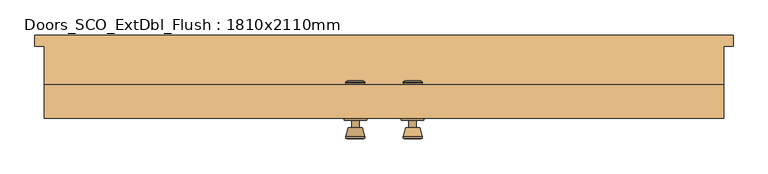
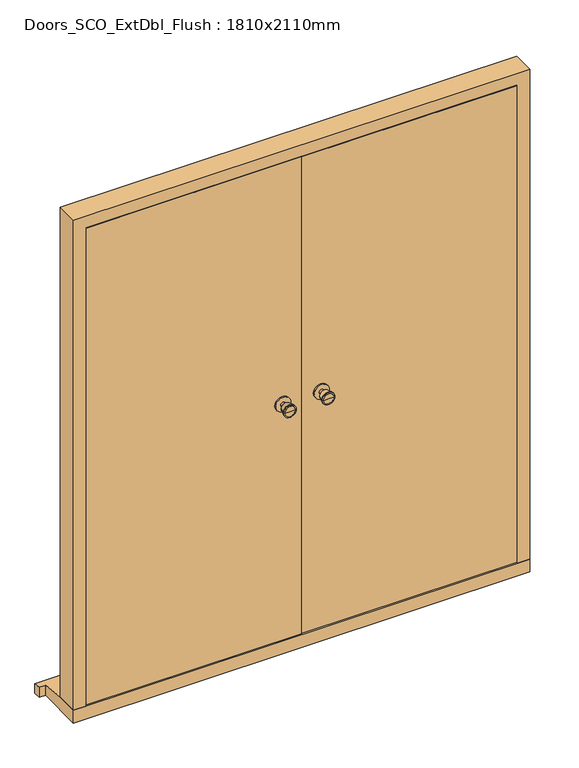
"""IFC4 building model written with IfcOpenShell, lengths in millimetres: door geometry, Doors_SCO_ExtDbl_Flush : 1810x2110mm."""

from ifc_helpers import new_model, si_unit, point, frame, frame_2d, origin, place, context, project, spatial, polyline, circle_curve, trimmed, segment, composite_curve, outline, extrude, faceted_brep, source, transform, mapped, element, save
from ifc_brep_helpers import plane_surface, cylinder_surface, revolved_surface, advanced_brep


def doors_sco_extdbl_flush_1810x2110mm_3cdf6cdb(model_context):
    return source(origin(), model_context, "Body", "SolidModel", [
        advanced_brep(
        [(-76.5, 3.5, 1050.0), (-66.5, 3.5, 1050.0), (-86.5, 3.5, 1050.0), (-96.9758676, -45.5, 1050.0), (-56.0241324, -45.5, 1050.0), (-76.5, -45.5, 1050.0), (-101.5, -43.6721319, 1050.0), (-51.5, -43.6721319, 1050.0), (-101.5, -40.2084537, 1050.0), (-51.5, -40.2084537, 1050.0), (-95.136236, -15.5, 1050.0), (-57.863764, -15.5, 1050.0), (-86.5, -15.5, 1050.0), (-66.5, -15.5, 1050.0)],
        [
            (0, 1),
            (1, 2, circle_curve(frame((-76.5, 3.5, 1050.0), z_axis=(0.0, 1.0, 0.0), x_axis=(1.0, 0.0, 0.0)), 10.0)),
            (2, 0),
            (2, 1, circle_curve(frame((-76.5, 3.5, 1050.0), z_axis=(0.0, 1.0, 0.0), x_axis=(1.0, 0.0, 0.0)), 10.0)),
            (3, 4, circle_curve(frame((-76.5, -45.5, 1050.0), z_axis=(0.0, -1.0, 0.0), x_axis=(1.0, 0.0, 0.0)), 20.4758676)),
            (4, 5),
            (5, 3),
            (4, 3, circle_curve(frame((-76.5, -45.5, 1050.0), z_axis=(0.0, -1.0, 0.0), x_axis=(1.0, 0.0, 0.0)), 20.4758676)),
            (6, 7, circle_curve(frame((-76.5, -43.6721319, 1050.0), z_axis=(0.0, -1.0, 0.0), x_axis=(1.0, 0.0, 0.0)), 25.0)),
            (7, 4),
            (3, 6),
            (7, 6, circle_curve(frame((-76.5, -43.6721319, 1050.0), z_axis=(0.0, -1.0, 0.0), x_axis=(1.0, 0.0, 0.0)), 25.0)),
            (8, 9, circle_curve(frame((-76.5, -40.2084537, 1050.0), z_axis=(0.0, -1.0, 0.0), x_axis=(1.0, 0.0, 0.0)), 25.0)),
            (9, 7),
            (6, 8),
            (9, 8, circle_curve(frame((-76.5, -40.2084537, 1050.0), z_axis=(0.0, -1.0, 0.0), x_axis=(1.0, 0.0, 0.0)), 25.0)),
            (10, 11, circle_curve(frame((-76.5, -15.5, 1050.0), z_axis=(0.0, -1.0, 0.0), x_axis=(1.0, 0.0, 0.0)), 18.636236)),
            (11, 9),
            (8, 10),
            (11, 10, circle_curve(frame((-76.5, -15.5, 1050.0), z_axis=(0.0, -1.0, 0.0), x_axis=(1.0, 0.0, 0.0)), 18.636236)),
            (12, 13, circle_curve(frame((-76.5, -15.5, 1050.0), z_axis=(0.0, -1.0, 0.0), x_axis=(1.0, 0.0, 0.0)), 10.0)),
            (13, 11),
            (10, 12),
            (13, 12, circle_curve(frame((-76.5, -15.5, 1050.0), z_axis=(0.0, -1.0, 0.0), x_axis=(1.0, 0.0, 0.0)), 10.0)),
            (1, 13),
            (12, 2),
        ],
        [
            plane_surface(frame((-76.5, 3.5, 1050.0), z_axis=(0.0, 1.0, 0.0), x_axis=(1.0, 0.0, 0.0))),
            plane_surface(frame((-76.5, -45.5, 1050.0), z_axis=(0.0, -1.0, 0.0), x_axis=(1.0, 0.0, 0.0))),
            revolved_surface(polyline([(-56.0241324, -45.5, 1050.0), (-51.5, -43.6721319, 1050.0)]), (-76.5, 3.5, 1050.0), (0.0, 1.0, 0.0)),
            cylinder_surface(frame((-76.5, 3.5, 1050.0), z_axis=(0.0, 1.0, 0.0), x_axis=(1.0, 0.0, 0.0)), 25.0),
            revolved_surface(polyline([(-51.5, -40.2084537, 1050.0), (-57.863764, -15.5, 1050.0)]), (-76.5, 3.5, 1050.0), (0.0, 1.0, 0.0)),
            plane_surface(frame((-76.5, -15.5, 1050.0), z_axis=(0.0, 1.0, 0.0), x_axis=(1.0, 0.0, 0.0))),
            cylinder_surface(frame((-76.5, 3.5, 1050.0), z_axis=(0.0, 1.0, 0.0), x_axis=(1.0, 0.0, 0.0)), 10.0),
        ],
        [
            (0, [[1, 2, 3]]),
            (0, [[-3, 4, -1]]),
            (1, [[5, 6, 7]]),
            (1, [[8, -7, -6]]),
            (2, [[9, 10, -5, 11]]),
            (2, [[12, -11, -8, -10]]),
            (3, [[13, 14, -9, 15]]),
            (3, [[16, -15, -12, -14]]),
            (4, [[17, 18, -13, 19]]),
            (4, [[20, -19, -16, -18]]),
            (5, [[21, 22, -17, 23]]),
            (5, [[24, -23, -20, -22]]),
            (6, [[-2, 25, -21, 26]]),
            (6, [[-4, -26, -24, -25]]),
        ],
    ),
        extrude(outline(composite_curve([segment(trimmed(circle_curve(frame_2d((1050.0, -76.5)), 30.0), [point((1050.0, -46.5))], [point((1050.0, -106.5))], False, "CARTESIAN"), True, "CONTINUOUS"), segment(trimmed(circle_curve(frame_2d((1050.0, -76.5)), 30.0), [point((1050.0, -106.5))], [point((1050.0, -46.5))], False, "CARTESIAN"), True, "CONTINUOUS")], self_intersect=False)), frame((0.0, 3.5, 0.0), z_axis=(0.0, 1.0, 0.0), x_axis=(0.0, 0.0, 1.0)), (0.0, 0.0, 1.0), 6.0),
        advanced_brep(
        [(-76.5, 59.5, 1050.0), (-86.5, 59.5, 1050.0), (-66.5, 59.5, 1050.0), (-96.9758676, 108.5, 1050.0), (-76.5, 108.5, 1050.0), (-56.0241324, 108.5, 1050.0), (-101.5, 106.6721319, 1050.0), (-51.5, 106.6721319, 1050.0), (-101.5, 103.2084537, 1050.0), (-51.5, 103.2084537, 1050.0), (-95.136236, 78.5, 1050.0), (-57.863764, 78.5, 1050.0), (-86.5, 78.5, 1050.0), (-66.5, 78.5, 1050.0)],
        [
            (0, 1),
            (1, 2, circle_curve(frame((-76.5, 59.5, 1050.0), z_axis=(0.0, -1.0, 0.0), x_axis=(1.0, 0.0, 0.0)), 10.0)),
            (2, 0),
            (2, 1, circle_curve(frame((-76.5, 59.5, 1050.0), z_axis=(0.0, -1.0, 0.0), x_axis=(1.0, 0.0, 0.0)), 10.0)),
            (3, 4),
            (4, 5),
            (5, 3, circle_curve(frame((-76.5, 108.5, 1050.0), z_axis=(0.0, 1.0, 0.0), x_axis=(1.0, 0.0, 0.0)), 20.4758676)),
            (3, 5, circle_curve(frame((-76.5, 108.5, 1050.0), z_axis=(0.0, 1.0, 0.0), x_axis=(1.0, 0.0, 0.0)), 20.4758676)),
            (6, 3),
            (5, 7),
            (7, 6, circle_curve(frame((-76.5, 106.6721319, 1050.0), z_axis=(0.0, 1.0, 0.0), x_axis=(1.0, 0.0, 0.0)), 25.0)),
            (6, 7, circle_curve(frame((-76.5, 106.6721319, 1050.0), z_axis=(0.0, 1.0, 0.0), x_axis=(1.0, 0.0, 0.0)), 25.0)),
            (8, 6),
            (7, 9),
            (9, 8, circle_curve(frame((-76.5, 103.2084537, 1050.0), z_axis=(0.0, 1.0, 0.0), x_axis=(1.0, 0.0, 0.0)), 25.0)),
            (8, 9, circle_curve(frame((-76.5, 103.2084537, 1050.0), z_axis=(0.0, 1.0, 0.0), x_axis=(1.0, 0.0, 0.0)), 25.0)),
            (10, 8),
            (9, 11),
            (11, 10, circle_curve(frame((-76.5, 78.5, 1050.0), z_axis=(0.0, 1.0, 0.0), x_axis=(1.0, 0.0, 0.0)), 18.636236)),
            (10, 11, circle_curve(frame((-76.5, 78.5, 1050.0), z_axis=(0.0, 1.0, 0.0), x_axis=(1.0, 0.0, 0.0)), 18.636236)),
            (12, 10),
            (11, 13),
            (13, 12, circle_curve(frame((-76.5, 78.5, 1050.0), z_axis=(0.0, 1.0, 0.0), x_axis=(1.0, 0.0, 0.0)), 10.0)),
            (12, 13, circle_curve(frame((-76.5, 78.5, 1050.0), z_axis=(0.0, 1.0, 0.0), x_axis=(1.0, 0.0, 0.0)), 10.0)),
            (1, 12),
            (13, 2),
        ],
        [
            plane_surface(frame((-76.5, 59.5, 1050.0), z_axis=(0.0, -1.0, 0.0), x_axis=(1.0, 0.0, 0.0))),
            plane_surface(frame((-76.5, 108.5, 1050.0), z_axis=(0.0, 1.0, 0.0), x_axis=(1.0, 0.0, 0.0))),
            revolved_surface(polyline([(-56.0241324, 108.5, 1050.0), (-51.5, 106.6721319, 1050.0)]), (-76.5, 59.5, 1050.0), (0.0, -1.0, 0.0)),
            cylinder_surface(frame((-76.5, 59.5, 1050.0), z_axis=(0.0, -1.0, 0.0), x_axis=(1.0, 0.0, 0.0)), 25.0),
            revolved_surface(polyline([(-51.5, 103.2084537, 1050.0), (-57.863764, 78.5, 1050.0)]), (-76.5, 59.5, 1050.0), (0.0, -1.0, 0.0)),
            plane_surface(frame((-76.5, 78.5, 1050.0), z_axis=(0.0, -1.0, 0.0), x_axis=(1.0, 0.0, 0.0))),
            cylinder_surface(frame((-76.5, 59.5, 1050.0), z_axis=(0.0, -1.0, 0.0), x_axis=(1.0, 0.0, 0.0)), 10.0),
        ],
        [
            (0, [[1, 2, 3]]),
            (0, [[-3, 4, -1]]),
            (1, [[5, 6, 7]]),
            (1, [[-6, -5, 8]]),
            (2, [[9, -7, 10, 11]]),
            (2, [[-10, -8, -9, 12]]),
            (3, [[13, -11, 14, 15]]),
            (3, [[-14, -12, -13, 16]]),
            (4, [[17, -15, 18, 19]]),
            (4, [[-18, -16, -17, 20]]),
            (5, [[21, -19, 22, 23]]),
            (5, [[-22, -20, -21, 24]]),
            (6, [[25, -23, 26, -2]]),
            (6, [[-26, -24, -25, -4]]),
        ],
    ),
        extrude(outline(composite_curve([segment(trimmed(circle_curve(frame_2d((1050.0, -76.5)), 30.0), [point((1050.0, -46.5))], [point((1050.0, -106.5))], False, "CARTESIAN"), True, "CONTINUOUS"), segment(trimmed(circle_curve(frame_2d((1050.0, -76.5)), 30.0), [point((1050.0, -106.5))], [point((1050.0, -46.5))], False, "CARTESIAN"), True, "CONTINUOUS")], self_intersect=False)), frame((0.0, 53.5, 0.0), z_axis=(0.0, 1.0, 0.0), x_axis=(0.0, 0.0, 1.0)), (0.0, 0.0, 1.0), 6.0),
        advanced_brep(
        [(76.5, 3.5, 1050.0), (86.5, 3.5, 1050.0), (66.5, 3.5, 1050.0), (96.9758676, -45.5, 1050.0), (76.5, -45.5, 1050.0), (56.0241324, -45.5, 1050.0), (101.5, -43.6721319, 1050.0), (51.5, -43.6721319, 1050.0), (101.5, -40.2084537, 1050.0), (51.5, -40.2084537, 1050.0), (95.136236, -15.5, 1050.0), (57.863764, -15.5, 1050.0), (86.5, -15.5, 1050.0), (66.5, -15.5, 1050.0)],
        [
            (0, 1),
            (1, 2, circle_curve(frame((76.5, 3.5, 1050.0), z_axis=(0.0, 1.0, 0.0), x_axis=(-1.0, 0.0, 0.0)), 10.0)),
            (2, 0),
            (2, 1, circle_curve(frame((76.5, 3.5, 1050.0), z_axis=(0.0, 1.0, 0.0), x_axis=(-1.0, 0.0, 0.0)), 10.0)),
            (3, 4),
            (4, 5),
            (5, 3, circle_curve(frame((76.5, -45.5, 1050.0), z_axis=(0.0, -1.0, 0.0), x_axis=(-1.0, 0.0, 0.0)), 20.4758676)),
            (3, 5, circle_curve(frame((76.5, -45.5, 1050.0), z_axis=(0.0, -1.0, 0.0), x_axis=(-1.0, 0.0, 0.0)), 20.4758676)),
            (6, 3),
            (5, 7),
            (7, 6, circle_curve(frame((76.5, -43.6721319, 1050.0), z_axis=(0.0, -1.0, 0.0), x_axis=(-1.0, 0.0, 0.0)), 25.0)),
            (6, 7, circle_curve(frame((76.5, -43.6721319, 1050.0), z_axis=(0.0, -1.0, 0.0), x_axis=(-1.0, 0.0, 0.0)), 25.0)),
            (8, 6),
            (7, 9),
            (9, 8, circle_curve(frame((76.5, -40.2084537, 1050.0), z_axis=(0.0, -1.0, 0.0), x_axis=(-1.0, 0.0, 0.0)), 25.0)),
            (8, 9, circle_curve(frame((76.5, -40.2084537, 1050.0), z_axis=(0.0, -1.0, 0.0), x_axis=(-1.0, 0.0, 0.0)), 25.0)),
            (10, 8),
            (9, 11),
            (11, 10, circle_curve(frame((76.5, -15.5, 1050.0), z_axis=(0.0, -1.0, 0.0), x_axis=(-1.0, 0.0, 0.0)), 18.636236)),
            (10, 11, circle_curve(frame((76.5, -15.5, 1050.0), z_axis=(0.0, -1.0, 0.0), x_axis=(-1.0, 0.0, 0.0)), 18.636236)),
            (12, 10),
            (11, 13),
            (13, 12, circle_curve(frame((76.5, -15.5, 1050.0), z_axis=(0.0, -1.0, 0.0), x_axis=(-1.0, 0.0, 0.0)), 10.0)),
            (12, 13, circle_curve(frame((76.5, -15.5, 1050.0), z_axis=(0.0, -1.0, 0.0), x_axis=(-1.0, 0.0, 0.0)), 10.0)),
            (1, 12),
            (13, 2),
        ],
        [
            plane_surface(frame((76.5, 3.5, 1050.0), z_axis=(0.0, 1.0, 0.0), x_axis=(-1.0, 0.0, 0.0))),
            plane_surface(frame((76.5, -45.5, 1050.0), z_axis=(0.0, -1.0, 0.0), x_axis=(-1.0, 0.0, 0.0))),
            revolved_surface(polyline([(56.0241324, -45.5, 1050.0), (51.5, -43.6721319, 1050.0)]), (76.5, 3.5, 1050.0), (0.0, 1.0, 0.0)),
            cylinder_surface(frame((76.5, 3.5, 1050.0), z_axis=(0.0, 1.0, 0.0), x_axis=(-1.0, 0.0, 0.0)), 25.0),
            revolved_surface(polyline([(51.5, -40.2084537, 1050.0), (57.863764, -15.5, 1050.0)]), (76.5, 3.5, 1050.0), (0.0, 1.0, 0.0)),
            plane_surface(frame((76.5, -15.5, 1050.0), z_axis=(0.0, 1.0, 0.0), x_axis=(-1.0, 0.0, 0.0))),
            cylinder_surface(frame((76.5, 3.5, 1050.0), z_axis=(0.0, 1.0, 0.0), x_axis=(-1.0, 0.0, 0.0)), 10.0),
        ],
        [
            (0, [[1, 2, 3]]),
            (0, [[-3, 4, -1]]),
            (1, [[5, 6, 7]]),
            (1, [[-6, -5, 8]]),
            (2, [[9, -7, 10, 11]]),
            (2, [[-10, -8, -9, 12]]),
            (3, [[13, -11, 14, 15]]),
            (3, [[-14, -12, -13, 16]]),
            (4, [[17, -15, 18, 19]]),
            (4, [[-18, -16, -17, 20]]),
            (5, [[21, -19, 22, 23]]),
            (5, [[-22, -20, -21, 24]]),
            (6, [[25, -23, 26, -2]]),
            (6, [[-26, -24, -25, -4]]),
        ],
    ),
        extrude(outline(composite_curve([segment(trimmed(circle_curve(frame_2d((1050.0, 76.5)), 30.0), [point((1050.0, 46.5))], [point((1050.0, 106.5))], False, "CARTESIAN"), True, "CONTINUOUS"), segment(trimmed(circle_curve(frame_2d((1050.0, 76.5)), 30.0), [point((1050.0, 106.5))], [point((1050.0, 46.5))], False, "CARTESIAN"), True, "CONTINUOUS")], self_intersect=False)), frame((0.0, 3.5, 0.0), z_axis=(0.0, 1.0, 0.0), x_axis=(0.0, 0.0, 1.0)), (0.0, 0.0, 1.0), 6.0),
        advanced_brep(
        [(76.5, 59.5, 1050.0), (66.5, 59.5, 1050.0), (86.5, 59.5, 1050.0), (96.9758676, 108.5, 1050.0), (56.0241324, 108.5, 1050.0), (76.5, 108.5, 1050.0), (101.5, 106.6721319, 1050.0), (51.5, 106.6721319, 1050.0), (101.5, 103.2084537, 1050.0), (51.5, 103.2084537, 1050.0), (95.136236, 78.5, 1050.0), (57.863764, 78.5, 1050.0), (86.5, 78.5, 1050.0), (66.5, 78.5, 1050.0)],
        [
            (0, 1),
            (1, 2, circle_curve(frame((76.5, 59.5, 1050.0), z_axis=(0.0, -1.0, 0.0), x_axis=(-1.0, 0.0, 0.0)), 10.0)),
            (2, 0),
            (2, 1, circle_curve(frame((76.5, 59.5, 1050.0), z_axis=(0.0, -1.0, 0.0), x_axis=(-1.0, 0.0, 0.0)), 10.0)),
            (3, 4, circle_curve(frame((76.5, 108.5, 1050.0), z_axis=(0.0, 1.0, 0.0), x_axis=(-1.0, 0.0, 0.0)), 20.4758676)),
            (4, 5),
            (5, 3),
            (4, 3, circle_curve(frame((76.5, 108.5, 1050.0), z_axis=(0.0, 1.0, 0.0), x_axis=(-1.0, 0.0, 0.0)), 20.4758676)),
            (6, 7, circle_curve(frame((76.5, 106.6721319, 1050.0), z_axis=(0.0, 1.0, 0.0), x_axis=(-1.0, 0.0, 0.0)), 25.0)),
            (7, 4),
            (3, 6),
            (7, 6, circle_curve(frame((76.5, 106.6721319, 1050.0), z_axis=(0.0, 1.0, 0.0), x_axis=(-1.0, 0.0, 0.0)), 25.0)),
            (8, 9, circle_curve(frame((76.5, 103.2084537, 1050.0), z_axis=(0.0, 1.0, 0.0), x_axis=(-1.0, 0.0, 0.0)), 25.0)),
            (9, 7),
            (6, 8),
            (9, 8, circle_curve(frame((76.5, 103.2084537, 1050.0), z_axis=(0.0, 1.0, 0.0), x_axis=(-1.0, 0.0, 0.0)), 25.0)),
            (10, 11, circle_curve(frame((76.5, 78.5, 1050.0), z_axis=(0.0, 1.0, 0.0), x_axis=(-1.0, 0.0, 0.0)), 18.636236)),
            (11, 9),
            (8, 10),
            (11, 10, circle_curve(frame((76.5, 78.5, 1050.0), z_axis=(0.0, 1.0, 0.0), x_axis=(-1.0, 0.0, 0.0)), 18.636236)),
            (12, 13, circle_curve(frame((76.5, 78.5, 1050.0), z_axis=(0.0, 1.0, 0.0), x_axis=(-1.0, 0.0, 0.0)), 10.0)),
            (13, 11),
            (10, 12),
            (13, 12, circle_curve(frame((76.5, 78.5, 1050.0), z_axis=(0.0, 1.0, 0.0), x_axis=(-1.0, 0.0, 0.0)), 10.0)),
            (1, 13),
            (12, 2),
        ],
        [
            plane_surface(frame((76.5, 59.5, 1050.0), z_axis=(0.0, -1.0, 0.0), x_axis=(-1.0, 0.0, 0.0))),
            plane_surface(frame((76.5, 108.5, 1050.0), z_axis=(0.0, 1.0, 0.0), x_axis=(-1.0, 0.0, 0.0))),
            revolved_surface(polyline([(56.0241324, 108.5, 1050.0), (51.5, 106.6721319, 1050.0)]), (76.5, 59.5, 1050.0), (0.0, -1.0, 0.0)),
            cylinder_surface(frame((76.5, 59.5, 1050.0), z_axis=(0.0, -1.0, 0.0), x_axis=(-1.0, 0.0, 0.0)), 25.0),
            revolved_surface(polyline([(51.5, 103.2084537, 1050.0), (57.863764, 78.5, 1050.0)]), (76.5, 59.5, 1050.0), (0.0, -1.0, 0.0)),
            plane_surface(frame((76.5, 78.5, 1050.0), z_axis=(0.0, -1.0, 0.0), x_axis=(-1.0, 0.0, 0.0))),
            cylinder_surface(frame((76.5, 59.5, 1050.0), z_axis=(0.0, -1.0, 0.0), x_axis=(-1.0, 0.0, 0.0)), 10.0),
        ],
        [
            (0, [[1, 2, 3]]),
            (0, [[-3, 4, -1]]),
            (1, [[5, 6, 7]]),
            (1, [[8, -7, -6]]),
            (2, [[9, 10, -5, 11]]),
            (2, [[12, -11, -8, -10]]),
            (3, [[13, 14, -9, 15]]),
            (3, [[16, -15, -12, -14]]),
            (4, [[17, 18, -13, 19]]),
            (4, [[20, -19, -16, -18]]),
            (5, [[21, 22, -17, 23]]),
            (5, [[24, -23, -20, -22]]),
            (6, [[-2, 25, -21, 26]]),
            (6, [[-4, -26, -24, -25]]),
        ],
    ),
        extrude(outline(composite_curve([segment(trimmed(circle_curve(frame_2d((1050.0, 76.5)), 30.0), [point((1050.0, 46.5))], [point((1050.0, 106.5))], False, "CARTESIAN"), True, "CONTINUOUS"), segment(trimmed(circle_curve(frame_2d((1050.0, 76.5)), 30.0), [point((1050.0, 106.5))], [point((1050.0, 46.5))], False, "CARTESIAN"), True, "CONTINUOUS")], self_intersect=False)), frame((0.0, 53.5, 0.0), z_axis=(0.0, 1.0, 0.0), x_axis=(0.0, 0.0, 1.0)), (0.0, 0.0, 1.0), 6.0),
        faceted_brep([(834.5, 98.5, 54.5), (905.0, 98.5, 54.5), (905.0, 9.5, 54.5), (856.5, 9.5, 54.5), (856.5, 56.5, 54.5), (834.5, 56.5, 54.5), (834.5, 98.5, 2039.5), (-834.5, 98.5, 2039.5), (-834.5, 98.5, 54.5), (-905.0, 98.5, 54.5), (-905.0, 98.5, 2110.0), (905.0, 98.5, 2110.0), (905.0, 9.5, 2110.0), (-905.0, 9.5, 2110.0), (-905.0, 9.5, 54.5), (-856.5, 9.5, 54.5), (-856.5, 9.5, 2061.5), (856.5, 9.5, 2061.5), (856.5, 56.5, 2061.5), (-856.5, 56.5, 2061.5), (-856.5, 56.5, 54.5), (-834.5, 56.5, 54.5), (-834.5, 56.5, 2039.5), (834.5, 56.5, 2039.5)], [[[0, 1, 2, 3, 4, 5]], [[1, 0, 6, 7, 8, 9, 10, 11]], [[2, 1, 11, 12]], [[3, 2, 12, 13, 14, 15, 16, 17]], [[4, 3, 17, 18]], [[5, 4, 18, 19, 20, 21, 22, 23]], [[0, 5, 23, 6]], [[7, 22, 21, 8]], [[8, 21, 20, 15, 14, 9]], [[13, 10, 9, 14]], [[19, 16, 15, 20]], [[12, 11, 10, 13]], [[18, 17, 16, 19]], [[6, 23, 22, 7]]]),
        faceted_brep([(930.0, 231.0, 0.0), (930.0, 231.0, 38.5947221), (930.0, 201.0, 42.1959171), (930.0, 201.0, 0.0), (-930.0, 231.0, 38.5947221), (-930.0, 231.0, 0.0), (-930.0, 201.0, 0.0), (-930.0, 201.0, 42.1959171), (905.0, 201.0, 0.0), (905.0, 9.5, 0.0), (-905.0, 9.5, 0.0), (-905.0, 201.0, 0.0), (-905.0, 201.0, 42.1959171), (-905.0, 98.5, 54.5), (905.0, 98.5, 54.5), (905.0, 201.0, 42.1959171), (-905.0, 9.5, 54.5), (905.0, 9.5, 54.5)], [[[0, 1, 2, 3]], [[4, 5, 6, 7]], [[5, 0, 3, 8, 9, 10, 11, 6]], [[1, 0, 5, 4]], [[1, 4, 7, 12, 13, 14, 15, 2]], [[13, 16, 17, 14]], [[16, 10, 9, 17]], [[12, 11, 10, 16, 13]], [[11, 12, 7, 6]], [[8, 15, 14, 17, 9]], [[15, 8, 3, 2]]]),
        extrude(outline(polyline([(853.5, 9.5), (1.5, 9.5), (1.5, 53.5), (853.5, 53.5), (853.5, 9.5)])), frame((0.0, 0.0, 58.5), z_axis=(0.0, 0.0, 1.0), x_axis=(1.0, 0.0, 0.0)), (0.0, 0.0, 1.0), 2000.0),
        extrude(outline(polyline([(-1.5, 9.5), (-853.5, 9.5), (-853.5, 53.5), (-1.5, 53.5), (-1.5, 9.5)])), frame((0.0, 0.0, 58.5), z_axis=(0.0, 0.0, 1.0), x_axis=(1.0, 0.0, 0.0)), (0.0, 0.0, 1.0), 2000.0),
    ])


if __name__ == "__main__":
    model = new_model("IFC4")
    model_context = context("Model", 3, world=origin())
    ifc_project = project(units=[si_unit("LENGTHUNIT", "METRE", prefix="MILLI")], contexts=[model_context])
    site = spatial("IfcSite", under=ifc_project)
    building = spatial("IfcBuilding", under=site)
    placement = place(None, origin())
    doors_sco_extdbl_flush_1810x2110mm_shape = doors_sco_extdbl_flush_1810x2110mm_3cdf6cdb(model_context)
    element("IfcDoor", 1, ObjectType="Doors_SCO_ExtDbl_Flush : 1810x2110mm", at=placement, inside=building, context=model_context, shape_type="MappedRepresentation", body=[
        mapped(doors_sco_extdbl_flush_1810x2110mm_shape, transform((0.0, 0.0, 0.0), x_axis=(1.0, 0.0, 0.0), y_axis=(0.0, 1.0, 0.0), z_axis=(0.0, 0.0, 1.0))),
    ])
    save(model, "model.ifc")
